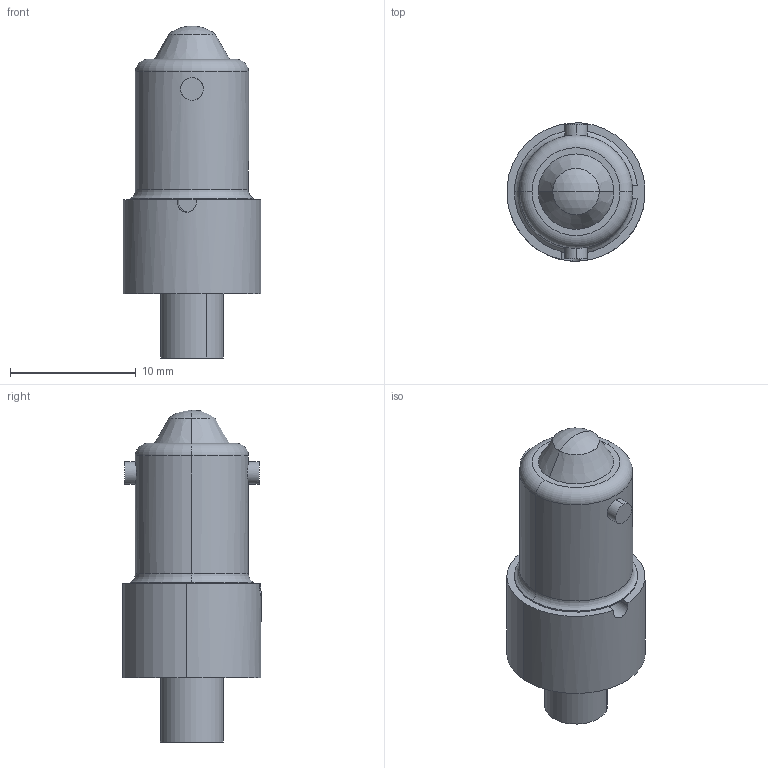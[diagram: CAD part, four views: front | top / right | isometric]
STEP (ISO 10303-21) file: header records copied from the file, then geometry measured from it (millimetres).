
FILE_DESCRIPTION (( 'STEP AP203' ), '1' );
FILE_NAME ('214 Series.STEP', '2016-08-03T09:04:30', ( '' ), ( '' ), 'SwSTEP 2.0', 'SolidWorks 2016', '' );
FILE_SCHEMA (( 'CONFIG_CONTROL_DESIGN' ));
Length unit declared in the file: millimetre
Products named in the file (6): LED_501_MPL FLAT TOPPED; Part1^214; 214 Series; COM4286; PCB4783; ba9_SLOT
Assembly tree (5 placements, depth 2):
  214 Series
    ba9_SLOT
    COM4286
    LED_501_MPL FLAT TOPPED
    PCB4783
    Part1^214
Bounding box: 10.97 x 10.98 x 26.4 mm (x, y, z)
Volume: 644.8 mm3; surface area: 1974.5 mm2
Topology: 5 solids, 5 shells, 89 faces, 195 edges, 123 vertices
Faces by surface type: plane 42, cylinder 33, torus 8, cone 4, sphere 2
Entity records: 3179 total; most frequent: CARTESIAN_POINT 533, DIRECTION 461, ORIENTED_EDGE 390, EDGE_CURVE 195, AXIS2_PLACEMENT_3D 181, VERTEX_POINT 123, EDGE_LOOP 100, VECTOR 99
